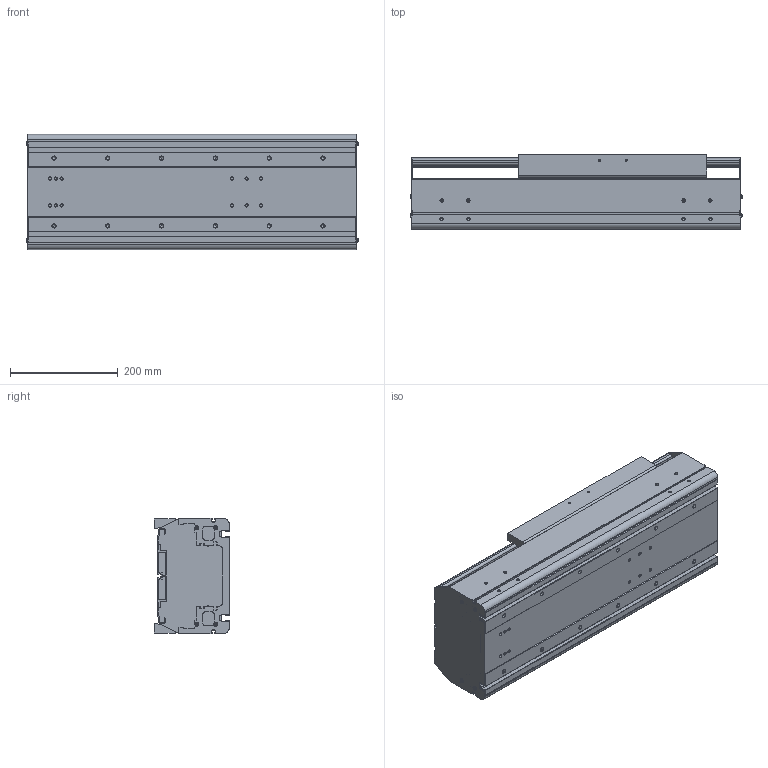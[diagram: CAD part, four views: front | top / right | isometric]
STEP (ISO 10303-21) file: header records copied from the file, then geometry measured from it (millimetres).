
FILE_DESCRIPTION((''),'2;1');
FILE_NAME('BE60G-ST-L_N-15_IGS_PRT','2017-06-18T',(' '),(''),'PRO/ENGINEER BY PARAMETRIC TECHNOLOGY CORPORATION, 2015030','PRO/ENGINEER BY PARAMETRIC TECHNOLOGY CORPORATION, 2015030','');
FILE_SCHEMA(('CONFIG_CONTROL_DESIGN'));
Length unit declared in the file: millimetre
Products named in the file (1): BE60G-ST-L_N-15_IGS_PRT
Bounding box: 617.4 x 140 x 214 mm (x, y, z)
Volume: 6022857.1 mm3; surface area: 1542061.1 mm2
Topology: 2 solids, 104 shells, 1354 faces, 3718 edges, 2430 vertices
Faces by surface type: cylinder 648, plane 574, cone 84, sphere 24, torus 24
Entity records: 44379 total; most frequent: CARTESIAN_POINT 9491, DIRECTION 7420, ORIENTED_EDGE 6876, EDGE_CURVE 3638, AXIS2_PLACEMENT_3D 2723, VERTEX_POINT 2430, VECTOR 1974, LINE 1974
